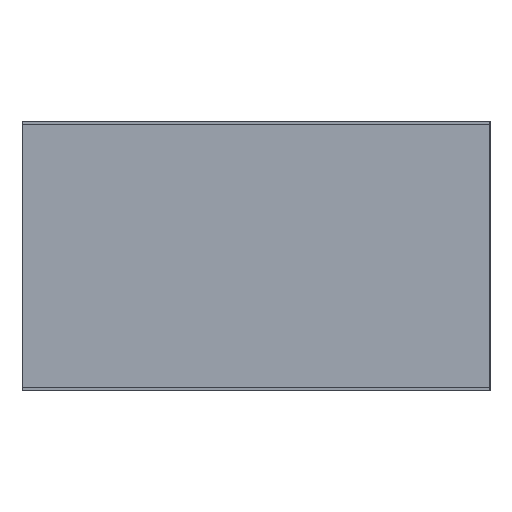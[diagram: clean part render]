
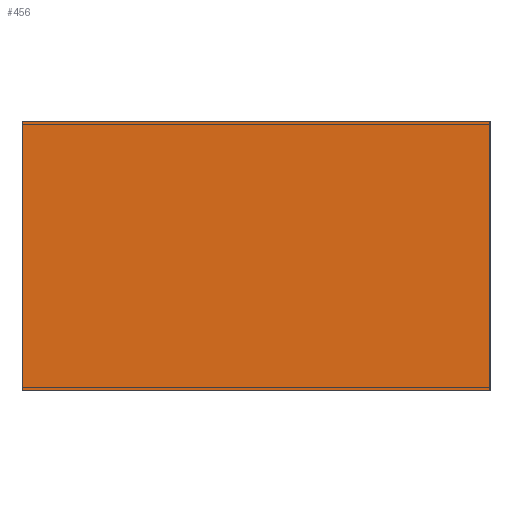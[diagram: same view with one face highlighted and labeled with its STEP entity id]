
A CAD part, left-side view. The second image highlights one B-rep face of the part: STEP entity #456.
In plain terms, the highlighted planar face has unit normal (-1, 0, 0).
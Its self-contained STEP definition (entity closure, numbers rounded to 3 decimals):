
#38=FACE_OUTER_BOUND('',#64,.T.);
#64=EDGE_LOOP('',(#383,#384,#385,#386));
#103=LINE('',#698,#163);
#112=LINE('',#715,#172);
#116=LINE('',#724,#176);
#118=LINE('',#727,#178);
#163=VECTOR('',#574,10.);
#172=VECTOR('',#587,10.);
#176=VECTOR('',#597,10.);
#178=VECTOR('',#601,10.);
#213=VERTEX_POINT('',#695);
#214=VERTEX_POINT('',#697);
#220=VERTEX_POINT('',#713);
#222=VERTEX_POINT('',#723);
#263=EDGE_CURVE('',#213,#214,#103,.T.);
#272=EDGE_CURVE('',#213,#220,#112,.T.);
#276=EDGE_CURVE('',#214,#222,#116,.T.);
#278=EDGE_CURVE('',#222,#220,#118,.T.);
#383=ORIENTED_EDGE('',*,*,#278,.F.);
#384=ORIENTED_EDGE('',*,*,#276,.F.);
#385=ORIENTED_EDGE('',*,*,#263,.F.);
#386=ORIENTED_EDGE('',*,*,#272,.T.);
#430=PLANE('',#507);
#456=ADVANCED_FACE('',(#38),#430,.T.);
#507=AXIS2_PLACEMENT_3D('',#728,#602,#603);
#574=DIRECTION('',(0.,0.,1.));
#587=DIRECTION('',(0.,-1.,0.));
#597=DIRECTION('',(0.,-1.,0.));
#601=DIRECTION('',(0.,0.,-1.));
#602=DIRECTION('center_axis',(-1.,0.,0.));
#603=DIRECTION('ref_axis',(0.,0.,1.));
#695=CARTESIAN_POINT('',(-0.005,0.8,-0.005));
#697=CARTESIAN_POINT('',(-0.005,0.8,0.455));
#698=CARTESIAN_POINT('',(-0.005,0.8,-0.005));
#713=CARTESIAN_POINT('',(-0.005,0.,-0.005));
#715=CARTESIAN_POINT('',(-0.005,0.8,-0.005));
#723=CARTESIAN_POINT('',(-0.005,0.,0.455));
#724=CARTESIAN_POINT('',(-0.005,0.8,0.455));
#727=CARTESIAN_POINT('',(-0.005,0.,0.455));
#728=CARTESIAN_POINT('Origin',(-0.005,-0.001,0.225));
